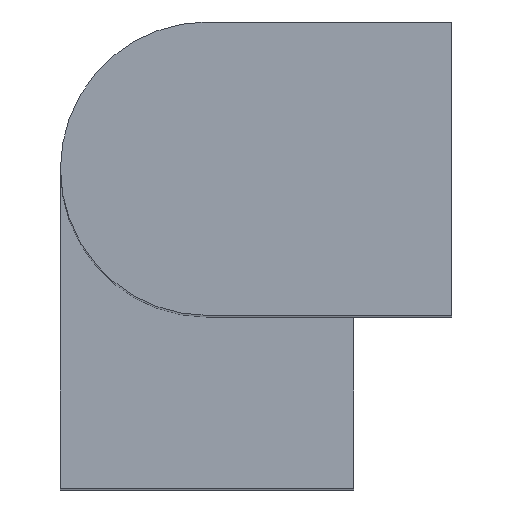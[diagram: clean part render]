
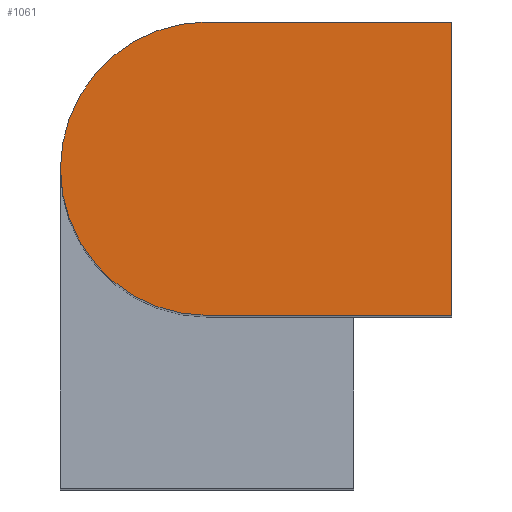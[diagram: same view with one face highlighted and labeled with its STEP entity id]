
A CAD part, top view. The second image highlights one B-rep face of the part: STEP entity #1061.
In plain terms, the highlighted planar face has unit normal (0, 0, 1) as drawn and (0, 0, -1) by its records, which use the part's own axes.
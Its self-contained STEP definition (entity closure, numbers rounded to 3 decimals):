
#2 = DIRECTION ( 'NONE',  ( 0., 0., 1. ) ) ;
#19 = VECTOR ( 'NONE', #1861, 1000. ) ;
#39 = EDGE_LOOP ( 'NONE', ( #971, #772, #619, #1217 ) ) ;
#71 = VERTEX_POINT ( 'NONE', #812 ) ;
#80 = AXIS2_PLACEMENT_3D ( 'NONE', #551, #1164, #712 ) ;
#82 = CARTESIAN_POINT ( 'NONE',  ( 6., -10., 0. ) ) ;
#84 = FACE_OUTER_BOUND ( 'NONE', #39, .T. ) ;
#105 = AXIS2_PLACEMENT_3D ( 'NONE', #205, #2, #357 ) ;
#205 = CARTESIAN_POINT ( 'NONE',  ( 0., 0., 0. ) ) ;
#223 = CARTESIAN_POINT ( 'NONE',  ( 6., -10., 0. ) ) ;
#276 = EDGE_CURVE ( 'NONE', #71, #739, #1655, .T. ) ;
#315 = CARTESIAN_POINT ( 'NONE',  ( 6., 0., 0. ) ) ;
#357 = DIRECTION ( 'NONE',  ( 1., 0., 0. ) ) ;
#448 = LINE ( 'NONE', #493, #19 ) ;
#493 = CARTESIAN_POINT ( 'NONE',  ( -6., 0., 0. ) ) ;
#551 = CARTESIAN_POINT ( 'NONE',  ( 0., 0., 0. ) ) ;
#581 = DIRECTION ( 'NONE',  ( 0., 1., 0. ) ) ;
#614 = EDGE_CURVE ( 'NONE', #1201, #947, #1887, .T. ) ;
#619 = ORIENTED_EDGE ( 'NONE', *, *, #276, .F. ) ;
#712 = DIRECTION ( 'NONE',  ( 1., 0., 0. ) ) ;
#739 = VERTEX_POINT ( 'NONE', #223 ) ;
#765 = EDGE_CURVE ( 'NONE', #739, #1201, #1663, .T. ) ;
#772 = ORIENTED_EDGE ( 'NONE', *, *, #765, .F. ) ;
#812 = CARTESIAN_POINT ( 'NONE',  ( -6., -10., 0. ) ) ;
#947 = VERTEX_POINT ( 'NONE', #1833 ) ;
#971 = ORIENTED_EDGE ( 'NONE', *, *, #614, .F. ) ;
#1061 = ADVANCED_FACE ( 'NONE', ( #84 ), #1191, .F. ) ;
#1162 = DIRECTION ( 'NONE',  ( 1., 0., 0. ) ) ;
#1164 = DIRECTION ( 'NONE',  ( 0., 0., 1. ) ) ;
#1191 = PLANE ( 'NONE',  #80 ) ;
#1201 = VERTEX_POINT ( 'NONE', #1462 ) ;
#1217 = ORIENTED_EDGE ( 'NONE', *, *, #1919, .F. ) ;
#1462 = CARTESIAN_POINT ( 'NONE',  ( 6., 0., 0. ) ) ;
#1655 = LINE ( 'NONE', #82, #2023 ) ;
#1657 = VECTOR ( 'NONE', #581, 1000. ) ;
#1663 = LINE ( 'NONE', #315, #1657 ) ;
#1833 = CARTESIAN_POINT ( 'NONE',  ( -6., 0., 0. ) ) ;
#1861 = DIRECTION ( 'NONE',  ( 0., -1., 0. ) ) ;
#1887 = CIRCLE ( 'NONE', #105, 6. ) ;
#1919 = EDGE_CURVE ( 'NONE', #947, #71, #448, .T. ) ;
#2023 = VECTOR ( 'NONE', #1162, 1000. ) ;
